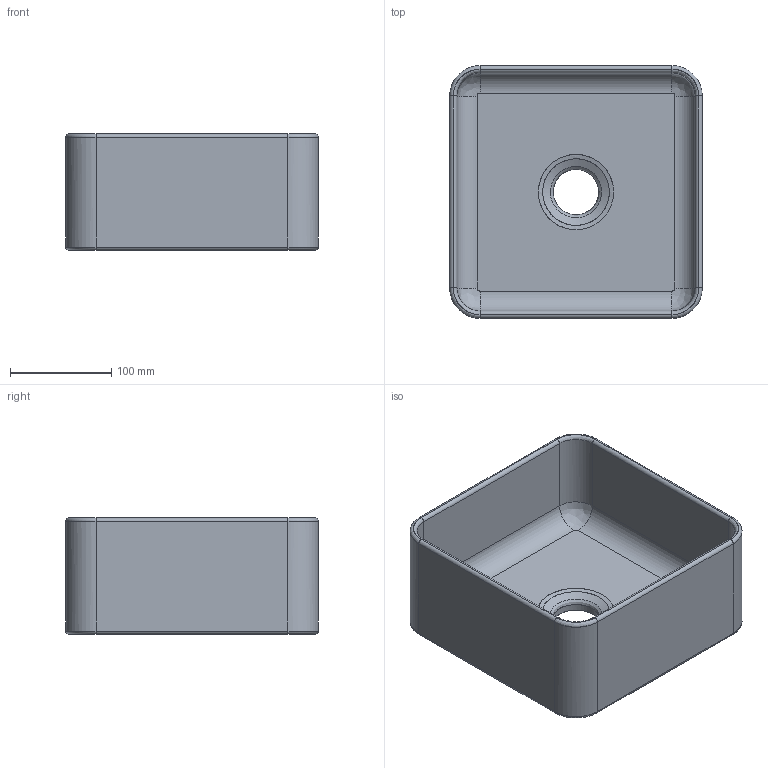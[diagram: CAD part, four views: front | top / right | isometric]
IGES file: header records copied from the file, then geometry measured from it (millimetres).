
Global section: file name: C:\Users\pc\Desktop\Archivio Nic 2023\Lavabo Dado cod. 001 927\Modello 3d\Dado.igs; native system: Rhinoceros ( Dec  8 2020 ); preprocessor: Trout Lake IGES 012 Dec  8 2020; date: 231205.090930; units: millimetre
Bounding box: 250 x 250 x 115 mm (x, y, z)
Surface area: 308516 mm2 (no closed solid volume)
Topology: 0 solids, 0 shells, 55 faces, 247 edges, 242 vertices
Faces by surface type: bspline 55
